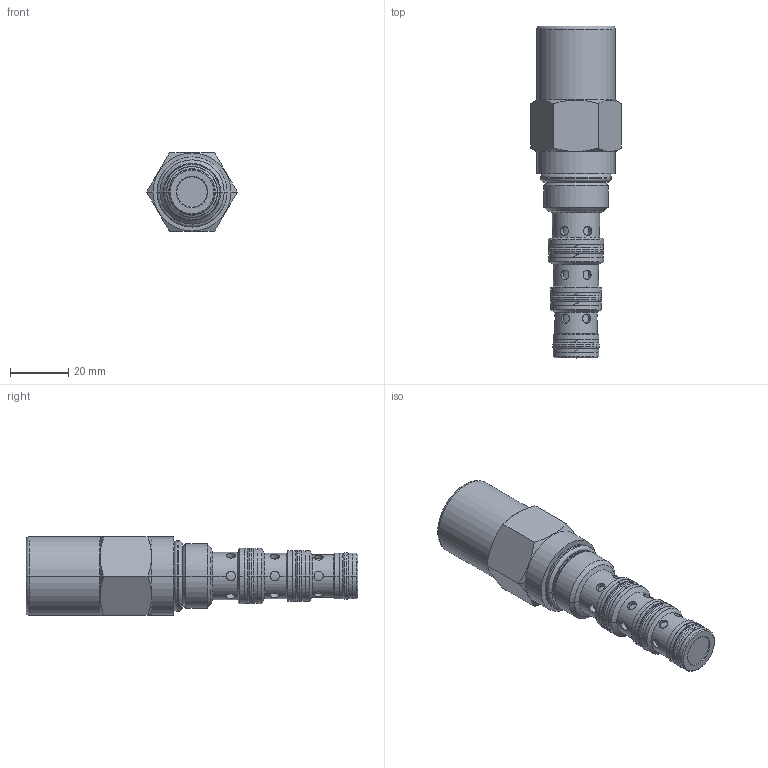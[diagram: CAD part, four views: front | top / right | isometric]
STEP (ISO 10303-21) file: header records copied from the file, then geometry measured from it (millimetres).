
FILE_DESCRIPTION((''),'2;1');
FILE_NAME('DCPS-10-A-T-OUT1','2015-12-21T',('torrese'),(''),'PRO/ENGINEER BY PARAMETRIC TECHNOLOGY CORPORATION, 2015070','PRO/ENGINEER BY PARAMETRIC TECHNOLOGY CORPORATION, 2015070','');
FILE_SCHEMA(('CONFIG_CONTROL_DESIGN','GEOMETRIC_VALIDATION_PROPERTIES_MIM'));
Length unit declared in the file: inch
Products named in the file (1): DCPS-10-A-T-OUT1
Bounding box: 31.15 x 114.02 x 26.97 mm (x, y, z)
Volume: 45409.5 mm3; surface area: 10032.1 mm2
Topology: 1 solids, 1 shells, 195 faces, 432 edges, 261 vertices
Faces by surface type: cylinder 110, plane 36, cone 27, torus 22
Entity records: 14260 total; most frequent: CARTESIAN_POINT 7811, DIRECTION 866, ORIENTED_EDGE 864, PRESENTATION_STYLE_ASSIGNMENT 544, STYLED_ITEM 439, CURVE_STYLE 432, EDGE_CURVE 432, AXIS2_PLACEMENT_3D 361
